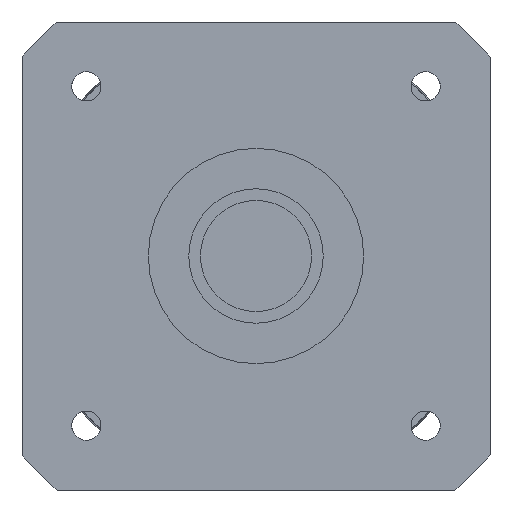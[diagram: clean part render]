
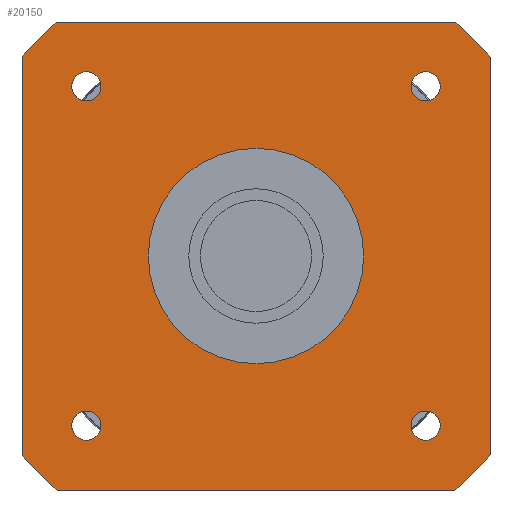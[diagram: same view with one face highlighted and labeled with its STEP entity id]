
A CAD part, left-side view. The second image highlights one B-rep face of the part: STEP entity #20150.
In plain terms, the highlighted planar face has unit normal (-1, 0, 0) as drawn and (0, 0, -1) by its records, which use the part's own axes.
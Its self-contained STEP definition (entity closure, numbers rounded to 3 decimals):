
#13790=CARTESIAN_POINT('',(40.,34.004,-44.));
#13800=VERTEX_POINT('',#13790);
#13960=CARTESIAN_POINT('',(34.004,40.,-44.));
#13970=VERTEX_POINT('',#13960);
#14000=CARTESIAN_POINT('',(0.,0.,
-44.));
#14010=DIRECTION('',(0.,0.,1.));
#14020=DIRECTION('',(1.,0.,0.));
#14030=AXIS2_PLACEMENT_3D('',#14000,#14010,#14020);
#14040=CIRCLE('',#14030,52.5);
#14050=EDGE_CURVE('',#13800,#13970,#14040,.T.);
#14210=CARTESIAN_POINT('',(-34.004,-40.,-44.));
#14220=VERTEX_POINT('',#14210);
#14370=CARTESIAN_POINT('',(34.004,-40.,-44.));
#14380=VERTEX_POINT('',#14370);
#14410=CARTESIAN_POINT('',(-40.,-40.,-44.));
#14420=DIRECTION('',(1.,0.,0.));
#14430=VECTOR('',#14420,1000.);
#14440=LINE('',#14410,#14430);
#14450=EDGE_CURVE('',#14220,#14380,#14440,.T.);
#18440=CARTESIAN_POINT('',(-28.998,-26.498,-44.));
#18450=VERTEX_POINT('',#18440);
#18630=CARTESIAN_POINT('',(-28.998,-31.498,-44.));
#18640=VERTEX_POINT('',#18630);
#18670=CARTESIAN_POINT('',(-28.998,-28.998,-44.));
#18680=DIRECTION('',(0.,0.,-1.));
#18690=DIRECTION('',(1.,0.,0.));
#18700=AXIS2_PLACEMENT_3D('',#18670,#18680,#18690);
#18710=CIRCLE('',#18700,2.5);
#18720=CARTESIAN_POINT('',(-26.498,-28.998,-44.));
#18730=VERTEX_POINT('',#18720);
#18740=EDGE_CURVE('',#18730,#18640,#18710,.T.);
#18760=EDGE_CURVE('',#18450,#18730,#18710,.T.);
#18810=CARTESIAN_POINT('',(40.,40.,-44.));
#18820=DIRECTION('',(0.,0.,1.));
#18830=DIRECTION('',(0.,1.,0.));
#18840=AXIS2_PLACEMENT_3D('',#18810,#18820,#18830);
#18850=PLANE('',#18840);
#18860=CARTESIAN_POINT('',(28.998,28.998,-44.));
#18870=DIRECTION('',(0.,0.,-1.));
#18880=DIRECTION('',(1.,0.,0.));
#18890=AXIS2_PLACEMENT_3D('',#18860,#18870,#18880);
#18900=CIRCLE('',#18890,2.5);
#18910=CARTESIAN_POINT('',(31.498,28.998,-44.));
#18920=VERTEX_POINT('',#18910);
#18930=CARTESIAN_POINT('',(28.998,26.498,-44.));
#18940=VERTEX_POINT('',#18930);
#18950=EDGE_CURVE('',#18920,#18940,#18900,.T.);
#18960=ORIENTED_EDGE('',*,*,#18950,.F.);
#18970=CARTESIAN_POINT('',(28.998,31.498,-44.));
#18980=VERTEX_POINT('',#18970);
#18990=EDGE_CURVE('',#18940,#18980,#18900,.T.);
#19000=ORIENTED_EDGE('',*,*,#18990,.F.);
#19010=EDGE_CURVE('',#18980,#18920,#18900,.T.);
#19020=ORIENTED_EDGE('',*,*,#19010,.F.);
#19030=EDGE_LOOP('',(#19020,#19000,#18960));
#19040=FACE_BOUND('',#19030,.T.);
#19050=CARTESIAN_POINT('',(-28.998,28.998,-44.));
#19060=DIRECTION('',(0.,0.,-1.));
#19070=DIRECTION('',(1.,0.,0.));
#19080=AXIS2_PLACEMENT_3D('',#19050,#19060,#19070);
#19090=CIRCLE('',#19080,2.5);
#19100=CARTESIAN_POINT('',(-26.498,28.998,-44.));
#19110=VERTEX_POINT('',#19100);
#19120=CARTESIAN_POINT('',(-28.998,26.498,-44.));
#19130=VERTEX_POINT('',#19120);
#19140=EDGE_CURVE('',#19110,#19130,#19090,.T.);
#19150=ORIENTED_EDGE('',*,*,#19140,.F.);
#19160=CARTESIAN_POINT('',(-28.998,31.498,-44.));
#19170=VERTEX_POINT('',#19160);
#19180=EDGE_CURVE('',#19130,#19170,#19090,.T.);
#19190=ORIENTED_EDGE('',*,*,#19180,.F.);
#19200=EDGE_CURVE('',#19170,#19110,#19090,.T.);
#19210=ORIENTED_EDGE('',*,*,#19200,.F.);
#19220=EDGE_LOOP('',(#19210,#19190,#19150));
#19230=FACE_BOUND('',#19220,.T.);
#19240=CARTESIAN_POINT('',(0.,0.,-44.));
#19250=DIRECTION('',(0.,0.,1.));
#19260=DIRECTION('',(0.,-1.,0.));
#19270=AXIS2_PLACEMENT_3D('',#19240,#19250,#19260);
#19280=CIRCLE('',#19270,18.4);
#19290=CARTESIAN_POINT('',(0.,-18.4,-44.));
#19300=VERTEX_POINT('',#19290);
#19310=CARTESIAN_POINT('',(0.,18.4,-44.));
#19320=VERTEX_POINT('',#19310);
#19330=EDGE_CURVE('',#19300,#19320,#19280,.T.);
#19340=ORIENTED_EDGE('',*,*,#19330,.T.);
#19350=EDGE_CURVE('',#19320,#19300,#19280,.T.);
#19360=ORIENTED_EDGE('',*,*,#19350,.T.);
#19370=EDGE_LOOP('',(#19360,#19340));
#19380=FACE_BOUND('',#19370,.T.);
#19390=ORIENTED_EDGE('',*,*,#18740,.F.);
#19400=EDGE_CURVE('',#18640,#18450,#18710,.T.);
#19410=ORIENTED_EDGE('',*,*,#19400,.F.);
#19420=ORIENTED_EDGE('',*,*,#18760,.F.);
#19430=EDGE_LOOP('',(#19420,#19410,#19390));
#19440=FACE_BOUND('',#19430,.T.);
#19450=CARTESIAN_POINT('',(28.998,-28.998,-44.));
#19460=DIRECTION('',(0.,0.,-1.));
#19470=DIRECTION('',(1.,0.,0.));
#19480=AXIS2_PLACEMENT_3D('',#19450,#19460,#19470);
#19490=CIRCLE('',#19480,2.5);
#19500=CARTESIAN_POINT('',(31.498,-28.998,-44.));
#19510=VERTEX_POINT('',#19500);
#19520=CARTESIAN_POINT('',(28.998,-31.498,-44.));
#19530=VERTEX_POINT('',#19520);
#19540=EDGE_CURVE('',#19510,#19530,#19490,.T.);
#19550=ORIENTED_EDGE('',*,*,#19540,.F.);
#19560=CARTESIAN_POINT('',(28.998,-26.498,-44.));
#19570=VERTEX_POINT('',#19560);
#19580=EDGE_CURVE('',#19530,#19570,#19490,.T.);
#19590=ORIENTED_EDGE('',*,*,#19580,.F.);
#19600=EDGE_CURVE('',#19570,#19510,#19490,.T.);
#19610=ORIENTED_EDGE('',*,*,#19600,.F.);
#19620=EDGE_LOOP('',(#19610,#19590,#19550));
#19630=FACE_BOUND('',#19620,.T.);
#19640=CARTESIAN_POINT('',(0.,0.,
-44.));
#19650=DIRECTION('',(0.,0.,1.));
#19660=DIRECTION('',(1.,0.,0.));
#19670=AXIS2_PLACEMENT_3D('',#19640,#19650,#19660);
#19680=CIRCLE('',#19670,52.5);
#19690=CARTESIAN_POINT('',(-34.004,40.,-44.));
#19700=VERTEX_POINT('',#19690);
#19710=CARTESIAN_POINT('',(-40.,34.004,-44.));
#19720=VERTEX_POINT('',#19710);
#19730=EDGE_CURVE('',#19700,#19720,#19680,.T.);
#19740=ORIENTED_EDGE('',*,*,#19730,.F.);
#19750=CARTESIAN_POINT('',(-40.,40.,-44.));
#19760=DIRECTION('',(0.,-1.,0.));
#19770=VECTOR('',#19760,1000.);
#19780=LINE('',#19750,#19770);
#19790=CARTESIAN_POINT('',(-40.,-34.004,-44.));
#19800=VERTEX_POINT('',#19790);
#19810=EDGE_CURVE('',#19720,#19800,#19780,.T.);
#19820=ORIENTED_EDGE('',*,*,#19810,.F.);
#19830=CARTESIAN_POINT('',(0.,0.,
-44.));
#19840=DIRECTION('',(0.,0.,1.));
#19850=DIRECTION('',(1.,0.,0.));
#19860=AXIS2_PLACEMENT_3D('',#19830,#19840,#19850);
#19870=CIRCLE('',#19860,52.5);
#19880=EDGE_CURVE('',#19800,#14220,#19870,.T.);
#19890=ORIENTED_EDGE('',*,*,#19880,.F.);
#19900=ORIENTED_EDGE('',*,*,#14450,.F.);
#19910=CARTESIAN_POINT('',(0.,0.,
-44.));
#19920=DIRECTION('',(0.,0.,1.));
#19930=DIRECTION('',(1.,0.,0.));
#19940=AXIS2_PLACEMENT_3D('',#19910,#19920,#19930);
#19950=CIRCLE('',#19940,52.5);
#19960=CARTESIAN_POINT('',(40.,-34.004,-44.));
#19970=VERTEX_POINT('',#19960);
#19980=EDGE_CURVE('',#14380,#19970,#19950,.T.);
#19990=ORIENTED_EDGE('',*,*,#19980,.F.);
#20000=CARTESIAN_POINT('',(40.,-40.,-44.));
#20010=DIRECTION('',(0.,1.,0.));
#20020=VECTOR('',#20010,1000.);
#20030=LINE('',#20000,#20020);
#20040=EDGE_CURVE('',#19970,#13800,#20030,.T.);
#20050=ORIENTED_EDGE('',*,*,#20040,.F.);
#20060=ORIENTED_EDGE('',*,*,#14050,.F.);
#20070=CARTESIAN_POINT('',(40.,40.,-44.));
#20080=DIRECTION('',(-1.,0.,0.));
#20090=VECTOR('',#20080,1000.);
#20100=LINE('',#20070,#20090);
#20110=EDGE_CURVE('',#13970,#19700,#20100,.T.);
#20120=ORIENTED_EDGE('',*,*,#20110,.F.);
#20130=EDGE_LOOP('',(#20120,#20060,#20050,#19990,#19900,#19890,#19820,
#19740));
#20140=FACE_OUTER_BOUND('',#20130,.T.);
#20150=ADVANCED_FACE('',(#19040,#19230,#19380,#19440,#19630,#20140),
#18850,.F.);
